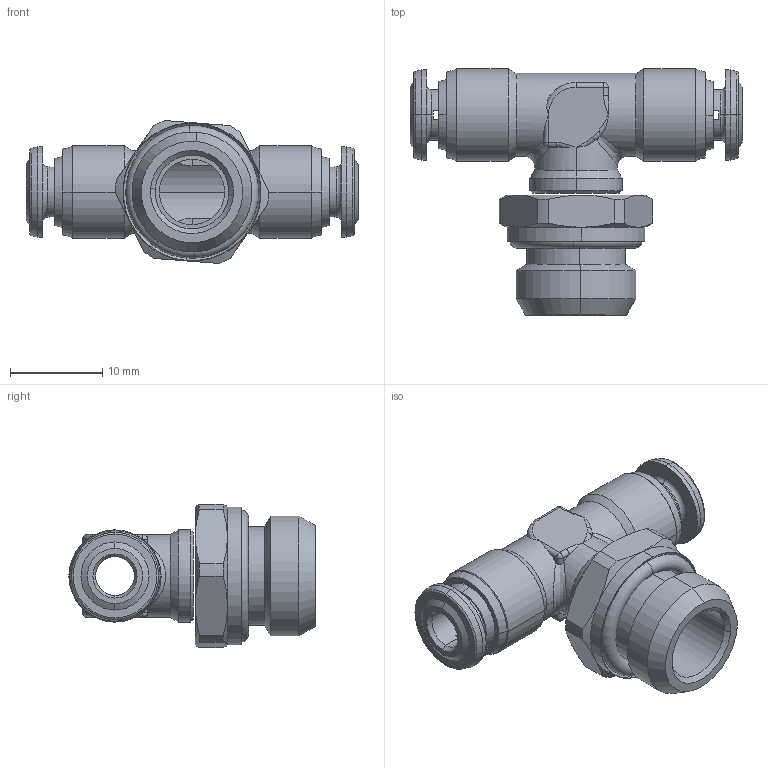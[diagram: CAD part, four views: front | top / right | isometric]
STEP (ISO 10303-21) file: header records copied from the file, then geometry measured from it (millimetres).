
FILE_DESCRIPTION (( 'STEP AP214' ), '1' );
FILE_NAME ('6021500002B.STEP', '2016-11-21T14:27:59', ( '' ), ( '' ), 'SwSTEP 2.0', 'SolidWorks 2016', '' );
FILE_SCHEMA (( 'AUTOMOTIVE_DESIGN' ));
Length unit declared in the file: millimetre
Products named in the file (2): 6021500002B
Bounding box: 36 x 26.7 x 15.51 mm (x, y, z)
Surface area: 3132.4 mm2 (no closed solid volume)
Topology: 0 solids, 8 shells, 185 faces, 481 edges, 290 vertices
Faces by surface type: cylinder 60, cone 56, plane 39, torus 16, bspline 10, sphere 4
Entity records: 8073 total; most frequent: CARTESIAN_POINT 1602, DIRECTION 981, ORIENTED_EDGE 852, EDGE_CURVE 469, AXIS2_PLACEMENT_3D 405, VERTEX_POINT 290, CIRCLE 228, EDGE_LOOP 200
